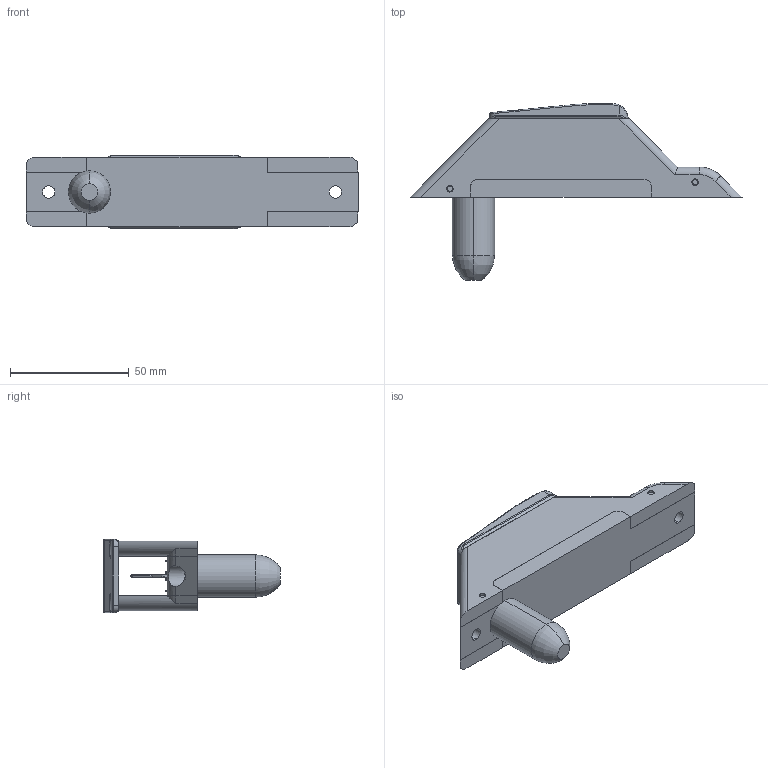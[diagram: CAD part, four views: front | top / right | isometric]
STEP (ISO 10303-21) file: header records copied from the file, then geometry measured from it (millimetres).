
FILE_DESCRIPTION (( 'STEP AP214' ), '1' );
FILE_NAME ('10006 Model 101 RevA NO DETAILS.STEP', '2024-03-09T17:06:50', ( '' ), ( '' ), 'SwSTEP 2.0', 'SolidWorks 2023', '' );
FILE_SCHEMA (( 'AUTOMOTIVE_DESIGN' ));
Length unit declared in the file: inch
Products named in the file (12): 6-32 L1125 18-8 Stainless Steel Phillips Flat Head Screws_91771A154; 6-32 L0500 316 Stainless Steel Phillips Flat Head Screws_91500A148; 10001 Sloped cell RHS; 10002 Sloped cell LHS; Sloped cell base no detail; Electrode wire long; 10004 Ceramic fin; TE thermistor probe 2K; Cable mold; Electrode wire short; 10006 Model 101 RevA NO DETAILS; 10003 Cell top
Assembly tree (17 placements, depth 2):
  10006 Model 101 RevA NO DETAILS
    Sloped cell base no detail
    10001 Sloped cell RHS
    10002 Sloped cell LHS
    10003 Cell top
    10004 Ceramic fin
    Electrode wire long  x2
    Electrode wire short  x2
    6-32 L0500 316 Stainless Steel Phillips Flat Head Screws_91500A148  x4
    6-32 L1125 18-8 Stainless Steel Phillips Flat Head Screws_91771A154  x2
    TE thermistor probe 2K
    Cable mold
Bounding box: 139.76 x 74.3 x 30.96 mm (x, y, z)
Volume: 82788.9 mm3; surface area: 36096 mm2
Topology: 17 solids, 18 shells, 808 faces, 2204 edges, 1407 vertices
Faces by surface type: cylinder 405, plane 198, cone 124, bspline 40, torus 39, sphere 2
Entity records: 23659 total; most frequent: CARTESIAN_POINT 12176, ORIENTED_EDGE 2450, DIRECTION 2155, EDGE_CURVE 1225, AXIS2_PLACEMENT_3D 819, VERTEX_POINT 788, LINE 517, VECTOR 517
